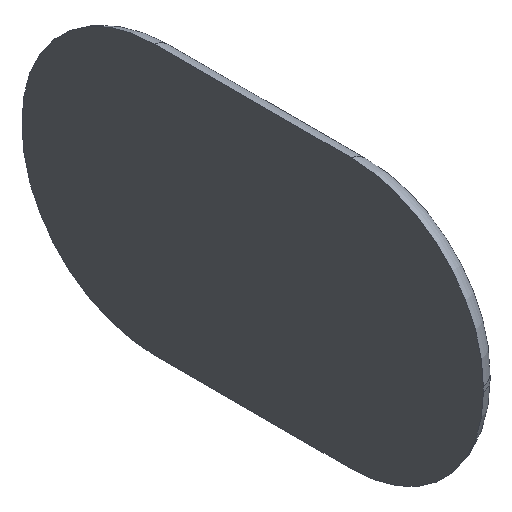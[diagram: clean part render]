
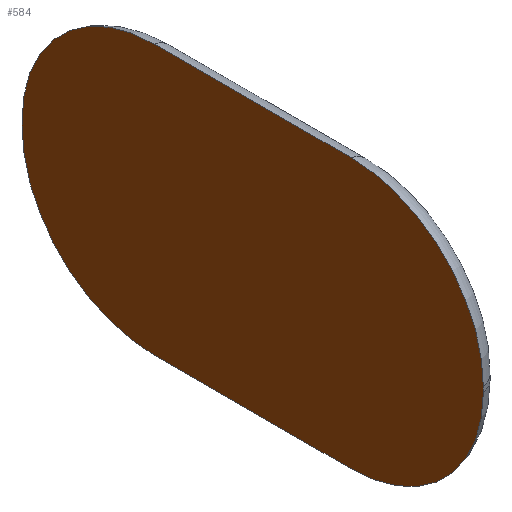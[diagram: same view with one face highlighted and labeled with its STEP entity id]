
A CAD part, isometric view. The second image highlights one B-rep face of the part: STEP entity #584.
In plain terms, the highlighted planar face has unit normal (-1, 0, 0).
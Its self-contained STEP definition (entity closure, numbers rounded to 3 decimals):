
#34=PLANE('',#661);
#65=FACE_OUTER_BOUND('',#97,.T.);
#97=EDGE_LOOP('',(#534,#535,#536,#537,#538,#539,#540,#541));
#130=LINE('',#951,#182);
#131=LINE('',#960,#183);
#132=LINE('',#968,#184);
#133=LINE('',#976,#185);
#182=VECTOR('',#748,1.);
#183=VECTOR('',#761,1.);
#184=VECTOR('',#772,1.);
#185=VECTOR('',#783,1.);
#224=CIRCLE('',#628,5.374);
#227=CIRCLE('',#633,5.374);
#230=CIRCLE('',#638,5.374);
#233=CIRCLE('',#643,5.374);
#282=VERTEX_POINT('',#949);
#283=VERTEX_POINT('',#950);
#284=VERTEX_POINT('',#955);
#285=VERTEX_POINT('',#959);
#286=VERTEX_POINT('',#963);
#287=VERTEX_POINT('',#967);
#288=VERTEX_POINT('',#971);
#289=VERTEX_POINT('',#975);
#342=EDGE_CURVE('',#282,#283,#130,.T.);
#345=EDGE_CURVE('',#284,#282,#224,.T.);
#347=EDGE_CURVE('',#285,#284,#131,.T.);
#349=EDGE_CURVE('',#286,#285,#227,.T.);
#351=EDGE_CURVE('',#287,#286,#132,.T.);
#353=EDGE_CURVE('',#288,#287,#230,.T.);
#355=EDGE_CURVE('',#289,#288,#133,.T.);
#357=EDGE_CURVE('',#283,#289,#233,.T.);
#534=ORIENTED_EDGE('',*,*,#342,.T.);
#535=ORIENTED_EDGE('',*,*,#357,.T.);
#536=ORIENTED_EDGE('',*,*,#355,.T.);
#537=ORIENTED_EDGE('',*,*,#353,.T.);
#538=ORIENTED_EDGE('',*,*,#351,.T.);
#539=ORIENTED_EDGE('',*,*,#349,.T.);
#540=ORIENTED_EDGE('',*,*,#347,.T.);
#541=ORIENTED_EDGE('',*,*,#345,.T.);
#584=ADVANCED_FACE('',(#65),#34,.F.);
#628=AXIS2_PLACEMENT_3D('',#956,#755,#756);
#633=AXIS2_PLACEMENT_3D('',#964,#766,#767);
#638=AXIS2_PLACEMENT_3D('',#972,#777,#778);
#643=AXIS2_PLACEMENT_3D('',#979,#788,#789);
#661=AXIS2_PLACEMENT_3D('',#1013,#840,#841);
#748=DIRECTION('',(0.,-1.,0.));
#755=DIRECTION('center_axis',(-1.,0.,0.));
#756=DIRECTION('ref_axis',(0.,0.,1.));
#761=DIRECTION('',(0.,0.,-1.));
#766=DIRECTION('center_axis',(-1.,0.,0.));
#767=DIRECTION('ref_axis',(0.,0.,1.));
#772=DIRECTION('',(0.,1.,0.));
#777=DIRECTION('center_axis',(-1.,0.,0.));
#778=DIRECTION('ref_axis',(0.,0.,1.));
#783=DIRECTION('',(0.,0.,1.));
#788=DIRECTION('center_axis',(-1.,0.,0.));
#789=DIRECTION('ref_axis',(0.,0.,1.));
#840=DIRECTION('center_axis',(1.,0.,0.));
#841=DIRECTION('ref_axis',(0.,0.,1.));
#949=CARTESIAN_POINT('',(40.05,27.,-17.474));
#950=CARTESIAN_POINT('',(40.05,19.,-17.474));
#951=CARTESIAN_POINT('',(40.05,25.,-17.474));
#955=CARTESIAN_POINT('',(40.05,32.374,-12.1));
#956=CARTESIAN_POINT('Origin',(40.05,27.,-12.1));
#959=CARTESIAN_POINT('',(40.05,32.374,-11.9));
#960=CARTESIAN_POINT('',(40.05,32.374,-11.95));
#963=CARTESIAN_POINT('',(40.05,27.,-6.526));
#964=CARTESIAN_POINT('Origin',(40.05,27.,-11.9));
#967=CARTESIAN_POINT('',(40.05,19.,-6.526));
#968=CARTESIAN_POINT('',(40.05,21.,-6.526));
#971=CARTESIAN_POINT('',(40.05,13.626,-11.9));
#972=CARTESIAN_POINT('Origin',(40.05,19.,-11.9));
#975=CARTESIAN_POINT('',(40.05,13.626,-12.1));
#976=CARTESIAN_POINT('',(40.05,13.626,-12.05));
#979=CARTESIAN_POINT('Origin',(40.05,19.,-12.1));
#1013=CARTESIAN_POINT('Origin',(40.05,-80.,-30.));
